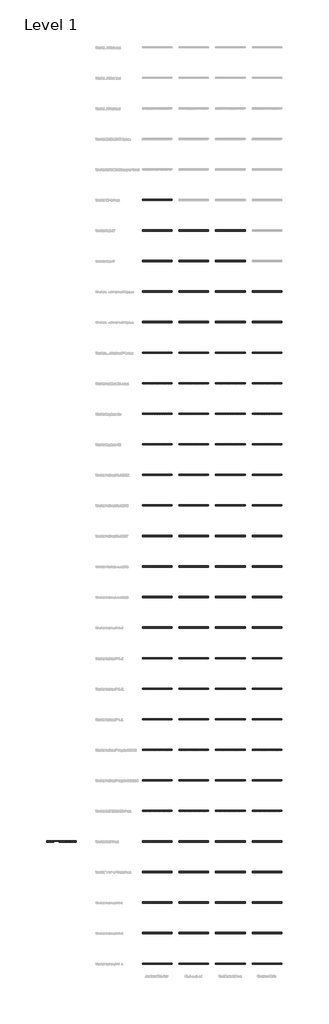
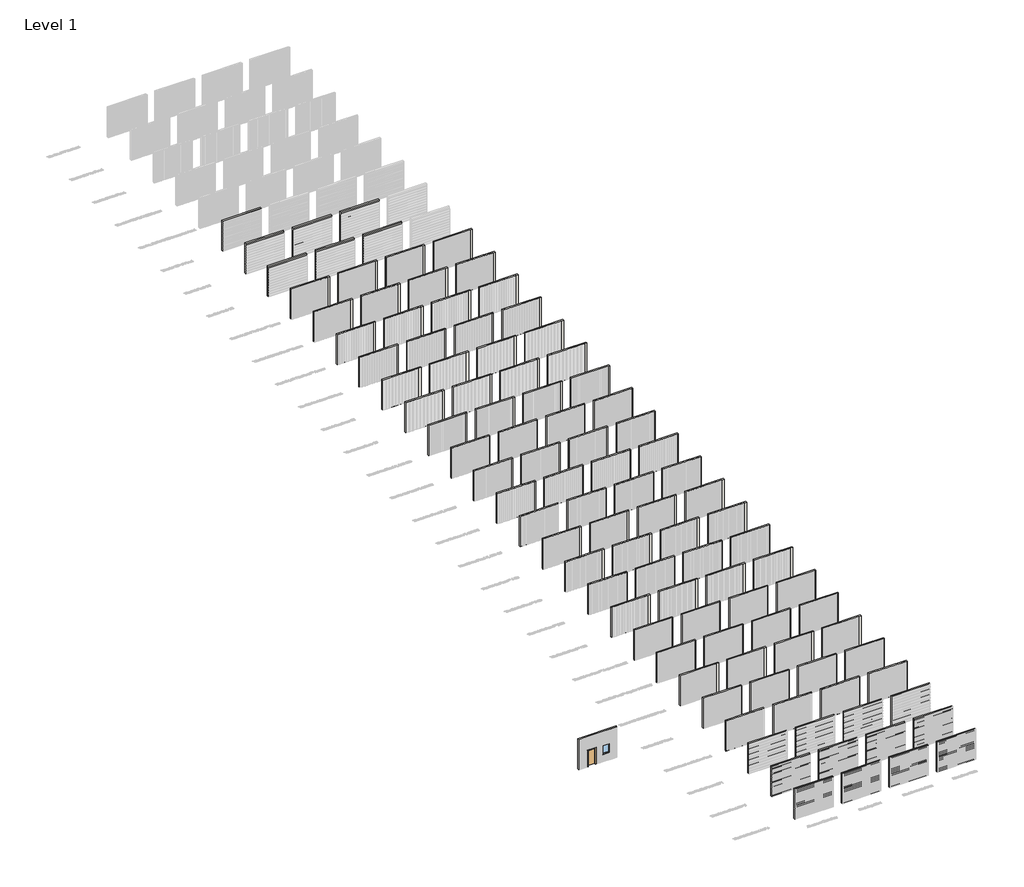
# One storey, part 1 of 33: 100 walls, 1 door, 1 window.
"""IFC4 building model written with IfcOpenShell, lengths in millimetres."""

from ifc_helpers import new_model, si_unit, frame, origin, origin_with_axes, place, context, project, spatial, polyline, outline, extrude, transform, mapped, element, save
from components import m_single_flush_0915_x_2134mm_6a9e8738, m_fixed_0915_x_1220mm_488fb2fb

model = new_model("IFC4")

# Units and contexts
model_context = context("Model", 3, world=origin())
ifc_project = project(units=[si_unit("LENGTHUNIT", "METRE", prefix="MILLI")], contexts=[model_context])

# Site, building, storey
site = spatial("IfcSite", under=ifc_project)
building = spatial("IfcBuilding", under=site)
storey = spatial("IfcBuildingStorey", under=building, Name="Level 1", Elevation=0.0)

# Door
placement = place(None, origin())
m_single_flush_0915_x_2134mm_shape = m_single_flush_0915_x_2134mm_6a9e8738(model_context)
element("IfcDoor", 1, ObjectType="M_Single-Flush : 0915 x 2134mm", at=placement, inside=storey, context=model_context, shape_type="MappedRepresentation", body=[
    mapped(m_single_flush_0915_x_2134mm_shape, transform((-16420.0272757, 2178.6095025, 0.0), x_axis=(1.0, 0.0, 0.0), y_axis=(0.0, 1.0, 0.0), z_axis=(0.0, 0.0, 1.0))),
])

# Walls
element("IfcWall", 2, ObjectType="Generic - 200mm", at=placement, inside=storey, context=model_context, shape_type="SweptSolid", body=[
    extrude(outline(polyline([(2489.4102183, 2078.6095025), (-2360.5897817, 2078.6095025), (-2360.5897817, 2278.6095025), (2489.4102183, 2278.6095025), (2489.4102183, 2078.6095025)])), origin_with_axes(), (0.0, 0.0, 1.0), 4000.0),
])
element("IfcWall", 3, ObjectType="Generic - 200mm", at=placement, inside=storey, context=model_context, shape_type="SweptSolid", body=[
    extrude(outline(polyline([(2489.4102183, -2921.3904975), (-2360.5897817, -2921.3904975), (-2360.5897817, -2721.3904975), (2489.4102183, -2721.3904975), (2489.4102183, -2921.3904975)])), origin_with_axes(), (0.0, 0.0, 1.0), 4000.0),
])
element("IfcWall", 4, ObjectType="Generic - 200mm", at=placement, inside=storey, context=model_context, shape_type="SweptSolid", body=[
    extrude(outline(polyline([(2489.4102183, -7921.3904975), (-2360.5897817, -7921.3904975), (-2360.5897817, -7721.3904975), (2489.4102183, -7721.3904975), (2489.4102183, -7921.3904975)])), origin_with_axes(), (0.0, 0.0, 1.0), 4000.0),
])
element("IfcWall", 5, ObjectType="Generic - 200mm", at=placement, inside=storey, context=model_context, shape_type="SweptSolid", body=[
    extrude(outline(polyline([(2134.0, -15962.5272757), (0.0, -15962.5272757), (0.0, -13227.5272757), (4000.0, -13227.5272757), (4000.0, -18077.5272757), (0.0, -18077.5272757), (0.0, -16877.5272757), (2134.0, -16877.5272757), (2134.0, -15962.5272757)]), holes=[polyline([(915.0, -15052.5272757), (2135.0, -15052.5272757), (2135.0, -14137.5272757), (915.0, -14137.5272757), (915.0, -15052.5272757)])]), frame((0.0, 2078.6095025, 0.0), z_axis=(0.0, 1.0, 0.0), x_axis=(0.0, 0.0, 1.0)), (0.0, 0.0, 1.0), 200.0),
])
element("IfcWall", 6, ObjectType="Generic - 200mm", at=placement, inside=storey, context=model_context, shape_type="SweptSolid", body=[
    extrude(outline(polyline([(2489.4102183, -12921.3904975), (-2360.5897817, -12921.3904975), (-2360.5897817, -12721.3904975), (2489.4102183, -12721.3904975), (2489.4102183, -12921.3904975)])), origin_with_axes(), (0.0, 0.0, 1.0), 4000.0),
])
element("IfcWall", 7, ObjectType="Generic - 200mm", at=placement, inside=storey, context=model_context, shape_type="SweptSolid", body=[
    extrude(outline(polyline([(2489.4102183, -17921.3904975), (-2360.5897817, -17921.3904975), (-2360.5897817, -17721.3904975), (2489.4102183, -17721.3904975), (2489.4102183, -17921.3904975)])), origin_with_axes(), (0.0, 0.0, 1.0), 4000.0),
])
element("IfcWall", 8, ObjectType="Generic - 200mm", at=placement, inside=storey, context=model_context, shape_type="SweptSolid", body=[
    extrude(outline(polyline([(8489.4102183, 2078.6095025), (3639.4102183, 2078.6095025), (3639.4102183, 2278.6095025), (8489.4102183, 2278.6095025), (8489.4102183, 2078.6095025)])), origin_with_axes(), (0.0, 0.0, 1.0), 4000.0),
])
element("IfcWall", 9, ObjectType="Generic - 200mm", at=placement, inside=storey, context=model_context, shape_type="SweptSolid", body=[
    extrude(outline(polyline([(8489.4102183, -2921.3904975), (3639.4102183, -2921.3904975), (3639.4102183, -2721.3904975), (8489.4102183, -2721.3904975), (8489.4102183, -2921.3904975)])), origin_with_axes(), (0.0, 0.0, 1.0), 4000.0),
])
element("IfcWall", 10, ObjectType="Generic - 200mm", at=placement, inside=storey, context=model_context, shape_type="SweptSolid", body=[
    extrude(outline(polyline([(8489.4102183, -7921.3904975), (3639.4102183, -7921.3904975), (3639.4102183, -7721.3904975), (8489.4102183, -7721.3904975), (8489.4102183, -7921.3904975)])), origin_with_axes(), (0.0, 0.0, 1.0), 4000.0),
])
element("IfcWall", 11, ObjectType="Generic - 200mm", at=placement, inside=storey, context=model_context, shape_type="SweptSolid", body=[
    extrude(outline(polyline([(8489.4102183, -12921.3904975), (3639.4102183, -12921.3904975), (3639.4102183, -12721.3904975), (8489.4102183, -12721.3904975), (8489.4102183, -12921.3904975)])), origin_with_axes(), (0.0, 0.0, 1.0), 4000.0),
])
element("IfcWall", 12, ObjectType="Generic - 200mm", at=placement, inside=storey, context=model_context, shape_type="SweptSolid", body=[
    extrude(outline(polyline([(8489.4102183, -17921.3904975), (3639.4102183, -17921.3904975), (3639.4102183, -17721.3904975), (8489.4102183, -17721.3904975), (8489.4102183, -17921.3904975)])), origin_with_axes(), (0.0, 0.0, 1.0), 4000.0),
])
element("IfcWall", 13, ObjectType="Generic - 200mm", at=placement, inside=storey, context=model_context, shape_type="SweptSolid", body=[
    extrude(outline(polyline([(14489.4102183, 2078.6095025), (9639.4102183, 2078.6095025), (9639.4102183, 2278.6095025), (14489.4102183, 2278.6095025), (14489.4102183, 2078.6095025)])), origin_with_axes(), (0.0, 0.0, 1.0), 4000.0),
])
element("IfcWall", 14, ObjectType="Generic - 200mm", at=placement, inside=storey, context=model_context, shape_type="SweptSolid", body=[
    extrude(outline(polyline([(14489.4102183, -2921.3904975), (9639.4102183, -2921.3904975), (9639.4102183, -2721.3904975), (14489.4102183, -2721.3904975), (14489.4102183, -2921.3904975)])), origin_with_axes(), (0.0, 0.0, 1.0), 4000.0),
])
element("IfcWall", 15, ObjectType="Generic - 200mm", at=placement, inside=storey, context=model_context, shape_type="SweptSolid", body=[
    extrude(outline(polyline([(14489.4102183, -7921.3904975), (9639.4102183, -7921.3904975), (9639.4102183, -7721.3904975), (14489.4102183, -7721.3904975), (14489.4102183, -7921.3904975)])), origin_with_axes(), (0.0, 0.0, 1.0), 4000.0),
])
element("IfcWall", 16, ObjectType="Generic - 200mm", at=placement, inside=storey, context=model_context, shape_type="SweptSolid", body=[
    extrude(outline(polyline([(14489.4102183, -12921.3904975), (9639.4102183, -12921.3904975), (9639.4102183, -12721.3904975), (14489.4102183, -12721.3904975), (14489.4102183, -12921.3904975)])), origin_with_axes(), (0.0, 0.0, 1.0), 4000.0),
])
element("IfcWall", 17, ObjectType="Generic - 200mm", at=placement, inside=storey, context=model_context, shape_type="SweptSolid", body=[
    extrude(outline(polyline([(14489.4102183, -17921.3904975), (9639.4102183, -17921.3904975), (9639.4102183, -17721.3904975), (14489.4102183, -17721.3904975), (14489.4102183, -17921.3904975)])), origin_with_axes(), (0.0, 0.0, 1.0), 4000.0),
])
element("IfcWall", 18, ObjectType="Generic - 200mm", at=placement, inside=storey, context=model_context, shape_type="SweptSolid", body=[
    extrude(outline(polyline([(20489.4102183, 2078.6095025), (15639.4102183, 2078.6095025), (15639.4102183, 2278.6095025), (20489.4102183, 2278.6095025), (20489.4102183, 2078.6095025)])), origin_with_axes(), (0.0, 0.0, 1.0), 4000.0),
])
element("IfcWall", 19, ObjectType="Generic - 200mm", at=placement, inside=storey, context=model_context, shape_type="SweptSolid", body=[
    extrude(outline(polyline([(20489.4102183, -2921.3904975), (15639.4102183, -2921.3904975), (15639.4102183, -2721.3904975), (20489.4102183, -2721.3904975), (20489.4102183, -2921.3904975)])), origin_with_axes(), (0.0, 0.0, 1.0), 4000.0),
])
element("IfcWall", 20, ObjectType="Generic - 200mm", at=placement, inside=storey, context=model_context, shape_type="SweptSolid", body=[
    extrude(outline(polyline([(20489.4102183, -7921.3904975), (15639.4102183, -7921.3904975), (15639.4102183, -7721.3904975), (20489.4102183, -7721.3904975), (20489.4102183, -7921.3904975)])), origin_with_axes(), (0.0, 0.0, 1.0), 4000.0),
])
element("IfcWall", 21, ObjectType="Generic - 200mm", at=placement, inside=storey, context=model_context, shape_type="SweptSolid", body=[
    extrude(outline(polyline([(20489.4102183, -12921.3904975), (15639.4102183, -12921.3904975), (15639.4102183, -12721.3904975), (20489.4102183, -12721.3904975), (20489.4102183, -12921.3904975)])), origin_with_axes(), (0.0, 0.0, 1.0), 4000.0),
])
element("IfcWall", 22, ObjectType="Generic - 200mm", at=placement, inside=storey, context=model_context, shape_type="SweptSolid", body=[
    extrude(outline(polyline([(20489.4102183, -17921.3904975), (15639.4102183, -17921.3904975), (15639.4102183, -17721.3904975), (20489.4102183, -17721.3904975), (20489.4102183, -17921.3904975)])), origin_with_axes(), (0.0, 0.0, 1.0), 4000.0),
])
element("IfcWall", 23, ObjectType="Generic - 200mm", at=placement, inside=storey, context=model_context, shape_type="SweptSolid", body=[
    extrude(outline(polyline([(2489.4102183, 7078.6095025), (-2360.5897817, 7078.6095025), (-2360.5897817, 7278.6095025), (2489.4102183, 7278.6095025), (2489.4102183, 7078.6095025)])), origin_with_axes(), (0.0, 0.0, 1.0), 4000.0),
])
element("IfcWall", 24, ObjectType="Generic - 200mm", at=placement, inside=storey, context=model_context, shape_type="SweptSolid", body=[
    extrude(outline(polyline([(8489.4102183, 7078.6095025), (3639.4102183, 7078.6095025), (3639.4102183, 7278.6095025), (8489.4102183, 7278.6095025), (8489.4102183, 7078.6095025)])), origin_with_axes(), (0.0, 0.0, 1.0), 4000.0),
])
element("IfcWall", 25, ObjectType="Generic - 200mm", at=placement, inside=storey, context=model_context, shape_type="SweptSolid", body=[
    extrude(outline(polyline([(14489.4102183, 7078.6095025), (9639.4102183, 7078.6095025), (9639.4102183, 7278.6095025), (14489.4102183, 7278.6095025), (14489.4102183, 7078.6095025)])), origin_with_axes(), (0.0, 0.0, 1.0), 4000.0),
])
element("IfcWall", 26, ObjectType="Generic - 200mm", at=placement, inside=storey, context=model_context, shape_type="SweptSolid", body=[
    extrude(outline(polyline([(20489.4102183, 7078.6095025), (15639.4102183, 7078.6095025), (15639.4102183, 7278.6095025), (20489.4102183, 7278.6095025), (20489.4102183, 7078.6095025)])), origin_with_axes(), (0.0, 0.0, 1.0), 4000.0),
])
element("IfcWall", 27, ObjectType="Generic - 200mm", at=placement, inside=storey, context=model_context, shape_type="SweptSolid", body=[
    extrude(outline(polyline([(2489.4102183, 12078.6095025), (-2360.5897817, 12078.6095025), (-2360.5897817, 12278.6095025), (2489.4102183, 12278.6095025), (2489.4102183, 12078.6095025)])), origin_with_axes(), (0.0, 0.0, 1.0), 4000.0),
])
element("IfcWall", 28, ObjectType="Generic - 200mm", at=placement, inside=storey, context=model_context, shape_type="SweptSolid", body=[
    extrude(outline(polyline([(8489.4102183, 12078.6095025), (3639.4102183, 12078.6095025), (3639.4102183, 12278.6095025), (8489.4102183, 12278.6095025), (8489.4102183, 12078.6095025)])), origin_with_axes(), (0.0, 0.0, 1.0), 4000.0),
])
element("IfcWall", 29, ObjectType="Generic - 200mm", at=placement, inside=storey, context=model_context, shape_type="SweptSolid", body=[
    extrude(outline(polyline([(14489.4102183, 12078.6095025), (9639.4102183, 12078.6095025), (9639.4102183, 12278.6095025), (14489.4102183, 12278.6095025), (14489.4102183, 12078.6095025)])), origin_with_axes(), (0.0, 0.0, 1.0), 4000.0),
])
element("IfcWall", 30, ObjectType="Generic - 200mm", at=placement, inside=storey, context=model_context, shape_type="SweptSolid", body=[
    extrude(outline(polyline([(20489.4102183, 12078.6095025), (15639.4102183, 12078.6095025), (15639.4102183, 12278.6095025), (20489.4102183, 12278.6095025), (20489.4102183, 12078.6095025)])), origin_with_axes(), (0.0, 0.0, 1.0), 4000.0),
])
element("IfcWall", 31, ObjectType="Generic - 200mm", at=placement, inside=storey, context=model_context, shape_type="SweptSolid", body=[
    extrude(outline(polyline([(2489.4102183, 17078.6095025), (-2360.5897817, 17078.6095025), (-2360.5897817, 17278.6095025), (2489.4102183, 17278.6095025), (2489.4102183, 17078.6095025)])), origin_with_axes(), (0.0, 0.0, 1.0), 4000.0),
])
element("IfcWall", 32, ObjectType="Generic - 200mm", at=placement, inside=storey, context=model_context, shape_type="SweptSolid", body=[
    extrude(outline(polyline([(8489.4102183, 17078.6095025), (3639.4102183, 17078.6095025), (3639.4102183, 17278.6095025), (8489.4102183, 17278.6095025), (8489.4102183, 17078.6095025)])), origin_with_axes(), (0.0, 0.0, 1.0), 4000.0),
])
element("IfcWall", 33, ObjectType="Generic - 200mm", at=placement, inside=storey, context=model_context, shape_type="SweptSolid", body=[
    extrude(outline(polyline([(14489.4102183, 17078.6095025), (9639.4102183, 17078.6095025), (9639.4102183, 17278.6095025), (14489.4102183, 17278.6095025), (14489.4102183, 17078.6095025)])), origin_with_axes(), (0.0, 0.0, 1.0), 4000.0),
])
element("IfcWall", 34, ObjectType="Generic - 200mm", at=placement, inside=storey, context=model_context, shape_type="SweptSolid", body=[
    extrude(outline(polyline([(20489.4102183, 17078.6095025), (15639.4102183, 17078.6095025), (15639.4102183, 17278.6095025), (20489.4102183, 17278.6095025), (20489.4102183, 17078.6095025)])), origin_with_axes(), (0.0, 0.0, 1.0), 4000.0),
])
element("IfcWall", 35, ObjectType="Generic - 200mm", at=placement, inside=storey, context=model_context, shape_type="SweptSolid", body=[
    extrude(outline(polyline([(2489.4102183, 22078.6095025), (-2360.5897817, 22078.6095025), (-2360.5897817, 22278.6095025), (2489.4102183, 22278.6095025), (2489.4102183, 22078.6095025)])), origin_with_axes(), (0.0, 0.0, 1.0), 4000.0),
])
element("IfcWall", 36, ObjectType="Generic - 200mm", at=placement, inside=storey, context=model_context, shape_type="SweptSolid", body=[
    extrude(outline(polyline([(8489.4102183, 22078.6095025), (3639.4102183, 22078.6095025), (3639.4102183, 22278.6095025), (8489.4102183, 22278.6095025), (8489.4102183, 22078.6095025)])), origin_with_axes(), (0.0, 0.0, 1.0), 4000.0),
])
element("IfcWall", 37, ObjectType="Generic - 200mm", at=placement, inside=storey, context=model_context, shape_type="SweptSolid", body=[
    extrude(outline(polyline([(14489.4102183, 22078.6095025), (9639.4102183, 22078.6095025), (9639.4102183, 22278.6095025), (14489.4102183, 22278.6095025), (14489.4102183, 22078.6095025)])), origin_with_axes(), (0.0, 0.0, 1.0), 4000.0),
])
element("IfcWall", 38, ObjectType="Generic - 200mm", at=placement, inside=storey, context=model_context, shape_type="SweptSolid", body=[
    extrude(outline(polyline([(20489.4102183, 22078.6095025), (15639.4102183, 22078.6095025), (15639.4102183, 22278.6095025), (20489.4102183, 22278.6095025), (20489.4102183, 22078.6095025)])), origin_with_axes(), (0.0, 0.0, 1.0), 4000.0),
])
element("IfcWall", 39, ObjectType="Generic - 200mm", at=placement, inside=storey, context=model_context, shape_type="SweptSolid", body=[
    extrude(outline(polyline([(2489.4102183, 27078.6095025), (-2360.5897817, 27078.6095025), (-2360.5897817, 27278.6095025), (2489.4102183, 27278.6095025), (2489.4102183, 27078.6095025)])), origin_with_axes(), (0.0, 0.0, 1.0), 4000.0),
])
element("IfcWall", 40, ObjectType="Generic - 200mm", at=placement, inside=storey, context=model_context, shape_type="SweptSolid", body=[
    extrude(outline(polyline([(8489.4102183, 27078.6095025), (3639.4102183, 27078.6095025), (3639.4102183, 27278.6095025), (8489.4102183, 27278.6095025), (8489.4102183, 27078.6095025)])), origin_with_axes(), (0.0, 0.0, 1.0), 4000.0),
])
element("IfcWall", 41, ObjectType="Generic - 200mm", at=placement, inside=storey, context=model_context, shape_type="SweptSolid", body=[
    extrude(outline(polyline([(14489.4102183, 27078.6095025), (9639.4102183, 27078.6095025), (9639.4102183, 27278.6095025), (14489.4102183, 27278.6095025), (14489.4102183, 27078.6095025)])), origin_with_axes(), (0.0, 0.0, 1.0), 4000.0),
])
element("IfcWall", 42, ObjectType="Generic - 200mm", at=placement, inside=storey, context=model_context, shape_type="SweptSolid", body=[
    extrude(outline(polyline([(20489.4102183, 27078.6095025), (15639.4102183, 27078.6095025), (15639.4102183, 27278.6095025), (20489.4102183, 27278.6095025), (20489.4102183, 27078.6095025)])), origin_with_axes(), (0.0, 0.0, 1.0), 4000.0),
])
element("IfcWall", 43, ObjectType="Generic - 200mm", at=placement, inside=storey, context=model_context, shape_type="SweptSolid", body=[
    extrude(outline(polyline([(2489.4102183, 32078.6095025), (-2360.5897817, 32078.6095025), (-2360.5897817, 32278.6095025), (2489.4102183, 32278.6095025), (2489.4102183, 32078.6095025)])), origin_with_axes(), (0.0, 0.0, 1.0), 4000.0),
])
element("IfcWall", 44, ObjectType="Generic - 200mm", at=placement, inside=storey, context=model_context, shape_type="SweptSolid", body=[
    extrude(outline(polyline([(8489.4102183, 32078.6095025), (3639.4102183, 32078.6095025), (3639.4102183, 32278.6095025), (8489.4102183, 32278.6095025), (8489.4102183, 32078.6095025)])), origin_with_axes(), (0.0, 0.0, 1.0), 4000.0),
])
element("IfcWall", 45, ObjectType="Generic - 200mm", at=placement, inside=storey, context=model_context, shape_type="SweptSolid", body=[
    extrude(outline(polyline([(14489.4102183, 32078.6095025), (9639.4102183, 32078.6095025), (9639.4102183, 32278.6095025), (14489.4102183, 32278.6095025), (14489.4102183, 32078.6095025)])), origin_with_axes(), (0.0, 0.0, 1.0), 4000.0),
])
element("IfcWall", 46, ObjectType="Generic - 200mm", at=placement, inside=storey, context=model_context, shape_type="SweptSolid", body=[
    extrude(outline(polyline([(20489.4102183, 32078.6095025), (15639.4102183, 32078.6095025), (15639.4102183, 32278.6095025), (20489.4102183, 32278.6095025), (20489.4102183, 32078.6095025)])), origin_with_axes(), (0.0, 0.0, 1.0), 4000.0),
])
element("IfcWall", 47, ObjectType="Generic - 200mm", at=placement, inside=storey, context=model_context, shape_type="SweptSolid", body=[
    extrude(outline(polyline([(2489.4102183, 37078.6095025), (-2360.5897817, 37078.6095025), (-2360.5897817, 37278.6095025), (2489.4102183, 37278.6095025), (2489.4102183, 37078.6095025)])), origin_with_axes(), (0.0, 0.0, 1.0), 4000.0),
])
element("IfcWall", 48, ObjectType="Generic - 200mm", at=placement, inside=storey, context=model_context, shape_type="SweptSolid", body=[
    extrude(outline(polyline([(8489.4102183, 37078.6095025), (3639.4102183, 37078.6095025), (3639.4102183, 37278.6095025), (8489.4102183, 37278.6095025), (8489.4102183, 37078.6095025)])), origin_with_axes(), (0.0, 0.0, 1.0), 4000.0),
])
element("IfcWall", 49, ObjectType="Generic - 200mm", at=placement, inside=storey, context=model_context, shape_type="SweptSolid", body=[
    extrude(outline(polyline([(14489.4102183, 37078.6095025), (9639.4102183, 37078.6095025), (9639.4102183, 37278.6095025), (14489.4102183, 37278.6095025), (14489.4102183, 37078.6095025)])), origin_with_axes(), (0.0, 0.0, 1.0), 4000.0),
])
element("IfcWall", 50, ObjectType="Generic - 200mm", at=placement, inside=storey, context=model_context, shape_type="SweptSolid", body=[
    extrude(outline(polyline([(20489.4102183, 37078.6095025), (15639.4102183, 37078.6095025), (15639.4102183, 37278.6095025), (20489.4102183, 37278.6095025), (20489.4102183, 37078.6095025)])), origin_with_axes(), (0.0, 0.0, 1.0), 4000.0),
])
element("IfcWall", 51, ObjectType="Generic - 200mm", at=placement, inside=storey, context=model_context, shape_type="SweptSolid", body=[
    extrude(outline(polyline([(2489.4102183, 42078.6095025), (-2360.5897817, 42078.6095025), (-2360.5897817, 42278.6095025), (2489.4102183, 42278.6095025), (2489.4102183, 42078.6095025)])), origin_with_axes(), (0.0, 0.0, 1.0), 4000.0),
])
element("IfcWall", 52, ObjectType="Generic - 200mm", at=placement, inside=storey, context=model_context, shape_type="SweptSolid", body=[
    extrude(outline(polyline([(8489.4102183, 42078.6095025), (3639.4102183, 42078.6095025), (3639.4102183, 42278.6095025), (8489.4102183, 42278.6095025), (8489.4102183, 42078.6095025)])), origin_with_axes(), (0.0, 0.0, 1.0), 4000.0),
])
element("IfcWall", 53, ObjectType="Generic - 200mm", at=placement, inside=storey, context=model_context, shape_type="SweptSolid", body=[
    extrude(outline(polyline([(14489.4102183, 42078.6095025), (9639.4102183, 42078.6095025), (9639.4102183, 42278.6095025), (14489.4102183, 42278.6095025), (14489.4102183, 42078.6095025)])), origin_with_axes(), (0.0, 0.0, 1.0), 4000.0),
])
element("IfcWall", 54, ObjectType="Generic - 200mm", at=placement, inside=storey, context=model_context, shape_type="SweptSolid", body=[
    extrude(outline(polyline([(20489.4102183, 42078.6095025), (15639.4102183, 42078.6095025), (15639.4102183, 42278.6095025), (20489.4102183, 42278.6095025), (20489.4102183, 42078.6095025)])), origin_with_axes(), (0.0, 0.0, 1.0), 4000.0),
])
element("IfcWall", 55, ObjectType="Generic - 200mm", at=placement, inside=storey, context=model_context, shape_type="SweptSolid", body=[
    extrude(outline(polyline([(2489.4102183, 47078.6095025), (-2360.5897817, 47078.6095025), (-2360.5897817, 47278.6095025), (2489.4102183, 47278.6095025), (2489.4102183, 47078.6095025)])), origin_with_axes(), (0.0, 0.0, 1.0), 4000.0),
])
element("IfcWall", 56, ObjectType="Generic - 200mm", at=placement, inside=storey, context=model_context, shape_type="SweptSolid", body=[
    extrude(outline(polyline([(8489.4102183, 47078.6095025), (3639.4102183, 47078.6095025), (3639.4102183, 47278.6095025), (8489.4102183, 47278.6095025), (8489.4102183, 47078.6095025)])), origin_with_axes(), (0.0, 0.0, 1.0), 4000.0),
])
element("IfcWall", 57, ObjectType="Generic - 200mm", at=placement, inside=storey, context=model_context, shape_type="SweptSolid", body=[
    extrude(outline(polyline([(14489.4102183, 47078.6095025), (9639.4102183, 47078.6095025), (9639.4102183, 47278.6095025), (14489.4102183, 47278.6095025), (14489.4102183, 47078.6095025)])), origin_with_axes(), (0.0, 0.0, 1.0), 4000.0),
])
element("IfcWall", 58, ObjectType="Generic - 200mm", at=placement, inside=storey, context=model_context, shape_type="SweptSolid", body=[
    extrude(outline(polyline([(20489.4102183, 47078.6095025), (15639.4102183, 47078.6095025), (15639.4102183, 47278.6095025), (20489.4102183, 47278.6095025), (20489.4102183, 47078.6095025)])), origin_with_axes(), (0.0, 0.0, 1.0), 4000.0),
])
element("IfcWall", 59, ObjectType="Generic - 200mm", at=placement, inside=storey, context=model_context, shape_type="SweptSolid", body=[
    extrude(outline(polyline([(2489.4102183, 52078.6095025), (-2360.5897817, 52078.6095025), (-2360.5897817, 52278.6095025), (2489.4102183, 52278.6095025), (2489.4102183, 52078.6095025)])), origin_with_axes(), (0.0, 0.0, 1.0), 4000.0),
])
element("IfcWall", 60, ObjectType="Generic - 200mm", at=placement, inside=storey, context=model_context, shape_type="SweptSolid", body=[
    extrude(outline(polyline([(8489.4102183, 52078.6095025), (3639.4102183, 52078.6095025), (3639.4102183, 52278.6095025), (8489.4102183, 52278.6095025), (8489.4102183, 52078.6095025)])), origin_with_axes(), (0.0, 0.0, 1.0), 4000.0),
])
element("IfcWall", 61, ObjectType="Generic - 200mm", at=placement, inside=storey, context=model_context, shape_type="SweptSolid", body=[
    extrude(outline(polyline([(14489.4102183, 52078.6095025), (9639.4102183, 52078.6095025), (9639.4102183, 52278.6095025), (14489.4102183, 52278.6095025), (14489.4102183, 52078.6095025)])), origin_with_axes(), (0.0, 0.0, 1.0), 4000.0),
])
element("IfcWall", 62, ObjectType="Generic - 200mm", at=placement, inside=storey, context=model_context, shape_type="SweptSolid", body=[
    extrude(outline(polyline([(20489.4102183, 52078.6095025), (15639.4102183, 52078.6095025), (15639.4102183, 52278.6095025), (20489.4102183, 52278.6095025), (20489.4102183, 52078.6095025)])), origin_with_axes(), (0.0, 0.0, 1.0), 4000.0),
])
element("IfcWall", 63, ObjectType="Generic - 200mm", at=placement, inside=storey, context=model_context, shape_type="SweptSolid", body=[
    extrude(outline(polyline([(2489.4102183, 57078.6095025), (-2360.5897817, 57078.6095025), (-2360.5897817, 57278.6095025), (2489.4102183, 57278.6095025), (2489.4102183, 57078.6095025)])), origin_with_axes(), (0.0, 0.0, 1.0), 4000.0),
])
element("IfcWall", 64, ObjectType="Generic - 200mm", at=placement, inside=storey, context=model_context, shape_type="SweptSolid", body=[
    extrude(outline(polyline([(8489.4102183, 57078.6095025), (3639.4102183, 57078.6095025), (3639.4102183, 57278.6095025), (8489.4102183, 57278.6095025), (8489.4102183, 57078.6095025)])), origin_with_axes(), (0.0, 0.0, 1.0), 4000.0),
])
element("IfcWall", 65, ObjectType="Generic - 200mm", at=placement, inside=storey, context=model_context, shape_type="SweptSolid", body=[
    extrude(outline(polyline([(14489.4102183, 57078.6095025), (9639.4102183, 57078.6095025), (9639.4102183, 57278.6095025), (14489.4102183, 57278.6095025), (14489.4102183, 57078.6095025)])), origin_with_axes(), (0.0, 0.0, 1.0), 4000.0),
])
element("IfcWall", 66, ObjectType="Generic - 200mm", at=placement, inside=storey, context=model_context, shape_type="SweptSolid", body=[
    extrude(outline(polyline([(20489.4102183, 57078.6095025), (15639.4102183, 57078.6095025), (15639.4102183, 57278.6095025), (20489.4102183, 57278.6095025), (20489.4102183, 57078.6095025)])), origin_with_axes(), (0.0, 0.0, 1.0), 4000.0),
])
element("IfcWall", 67, ObjectType="Generic - 200mm", at=placement, inside=storey, context=model_context, shape_type="SweptSolid", body=[
    extrude(outline(polyline([(2489.4102183, 62078.6095025), (-2360.5897817, 62078.6095025), (-2360.5897817, 62278.6095025), (2489.4102183, 62278.6095025), (2489.4102183, 62078.6095025)])), origin_with_axes(), (0.0, 0.0, 1.0), 4000.0),
])
element("IfcWall", 68, ObjectType="Generic - 200mm", at=placement, inside=storey, context=model_context, shape_type="SweptSolid", body=[
    extrude(outline(polyline([(8489.4102183, 62078.6095025), (3639.4102183, 62078.6095025), (3639.4102183, 62278.6095025), (8489.4102183, 62278.6095025), (8489.4102183, 62078.6095025)])), origin_with_axes(), (0.0, 0.0, 1.0), 4000.0),
])
element("IfcWall", 69, ObjectType="Generic - 200mm", at=placement, inside=storey, context=model_context, shape_type="SweptSolid", body=[
    extrude(outline(polyline([(14489.4102183, 62078.6095025), (9639.4102183, 62078.6095025), (9639.4102183, 62278.6095025), (14489.4102183, 62278.6095025), (14489.4102183, 62078.6095025)])), origin_with_axes(), (0.0, 0.0, 1.0), 4000.0),
])
element("IfcWall", 70, ObjectType="Generic - 200mm", at=placement, inside=storey, context=model_context, shape_type="SweptSolid", body=[
    extrude(outline(polyline([(20489.4102183, 62078.6095025), (15639.4102183, 62078.6095025), (15639.4102183, 62278.6095025), (20489.4102183, 62278.6095025), (20489.4102183, 62078.6095025)])), origin_with_axes(), (0.0, 0.0, 1.0), 4000.0),
])
element("IfcWall", 71, ObjectType="Generic - 200mm", at=placement, inside=storey, context=model_context, shape_type="SweptSolid", body=[
    extrude(outline(polyline([(2489.4102183, 67078.6095025), (-2360.5897817, 67078.6095025), (-2360.5897817, 67278.6095025), (2489.4102183, 67278.6095025), (2489.4102183, 67078.6095025)])), origin_with_axes(), (0.0, 0.0, 1.0), 4000.0),
])
element("IfcWall", 72, ObjectType="Generic - 200mm", at=placement, inside=storey, context=model_context, shape_type="SweptSolid", body=[
    extrude(outline(polyline([(8489.4102183, 67078.6095025), (3639.4102183, 67078.6095025), (3639.4102183, 67278.6095025), (8489.4102183, 67278.6095025), (8489.4102183, 67078.6095025)])), origin_with_axes(), (0.0, 0.0, 1.0), 4000.0),
])
element("IfcWall", 73, ObjectType="Generic - 200mm", at=placement, inside=storey, context=model_context, shape_type="SweptSolid", body=[
    extrude(outline(polyline([(14489.4102183, 67078.6095025), (9639.4102183, 67078.6095025), (9639.4102183, 67278.6095025), (14489.4102183, 67278.6095025), (14489.4102183, 67078.6095025)])), origin_with_axes(), (0.0, 0.0, 1.0), 4000.0),
])
element("IfcWall", 74, ObjectType="Generic - 200mm", at=placement, inside=storey, context=model_context, shape_type="SweptSolid", body=[
    extrude(outline(polyline([(20489.4102183, 67078.6095025), (15639.4102183, 67078.6095025), (15639.4102183, 67278.6095025), (20489.4102183, 67278.6095025), (20489.4102183, 67078.6095025)])), origin_with_axes(), (0.0, 0.0, 1.0), 4000.0),
])
element("IfcWall", 75, ObjectType="Generic - 200mm", at=placement, inside=storey, context=model_context, shape_type="SweptSolid", body=[
    extrude(outline(polyline([(2489.4102183, 72078.6095025), (-2360.5897817, 72078.6095025), (-2360.5897817, 72278.6095025), (2489.4102183, 72278.6095025), (2489.4102183, 72078.6095025)])), origin_with_axes(), (0.0, 0.0, 1.0), 4000.0),
])
element("IfcWall", 76, ObjectType="Generic - 200mm", at=placement, inside=storey, context=model_context, shape_type="SweptSolid", body=[
    extrude(outline(polyline([(8489.4102183, 72078.6095025), (3639.4102183, 72078.6095025), (3639.4102183, 72278.6095025), (8489.4102183, 72278.6095025), (8489.4102183, 72078.6095025)])), origin_with_axes(), (0.0, 0.0, 1.0), 4000.0),
])
element("IfcWall", 77, ObjectType="Generic - 200mm", at=placement, inside=storey, context=model_context, shape_type="SweptSolid", body=[
    extrude(outline(polyline([(14489.4102183, 72078.6095025), (9639.4102183, 72078.6095025), (9639.4102183, 72278.6095025), (14489.4102183, 72278.6095025), (14489.4102183, 72078.6095025)])), origin_with_axes(), (0.0, 0.0, 1.0), 4000.0),
])
element("IfcWall", 78, ObjectType="Generic - 200mm", at=placement, inside=storey, context=model_context, shape_type="SweptSolid", body=[
    extrude(outline(polyline([(20489.4102183, 72078.6095025), (15639.4102183, 72078.6095025), (15639.4102183, 72278.6095025), (20489.4102183, 72278.6095025), (20489.4102183, 72078.6095025)])), origin_with_axes(), (0.0, 0.0, 1.0), 4000.0),
])
element("IfcWall", 79, ObjectType="Generic - 200mm", at=placement, inside=storey, context=model_context, shape_type="SweptSolid", body=[
    extrude(outline(polyline([(2489.4102183, 87078.6095025), (-2360.5897817, 87078.6095025), (-2360.5897817, 87278.6095025), (2489.4102183, 87278.6095025), (2489.4102183, 87078.6095025)])), origin_with_axes(), (0.0, 0.0, 1.0), 4000.0),
])
element("IfcWall", 80, ObjectType="Generic - 200mm", at=placement, inside=storey, context=model_context, shape_type="SweptSolid", body=[
    extrude(outline(polyline([(8489.4102183, 87078.6095025), (3639.4102183, 87078.6095025), (3639.4102183, 87278.6095025), (8489.4102183, 87278.6095025), (8489.4102183, 87078.6095025)])), origin_with_axes(), (0.0, 0.0, 1.0), 4000.0),
])
element("IfcWall", 81, ObjectType="Generic - 200mm", at=placement, inside=storey, context=model_context, shape_type="SweptSolid", body=[
    extrude(outline(polyline([(14489.4102183, 87078.6095025), (9639.4102183, 87078.6095025), (9639.4102183, 87278.6095025), (14489.4102183, 87278.6095025), (14489.4102183, 87078.6095025)])), origin_with_axes(), (0.0, 0.0, 1.0), 4000.0),
])
element("IfcWall", 82, ObjectType="Generic - 200mm", at=placement, inside=storey, context=model_context, shape_type="SweptSolid", body=[
    extrude(outline(polyline([(20489.4102183, 87078.6095025), (15639.4102183, 87078.6095025), (15639.4102183, 87278.6095025), (20489.4102183, 87278.6095025), (20489.4102183, 87078.6095025)])), origin_with_axes(), (0.0, 0.0, 1.0), 4000.0),
])
element("IfcWall", 83, ObjectType="Generic - 200mm", at=placement, inside=storey, context=model_context, shape_type="SweptSolid", body=[
    extrude(outline(polyline([(2489.4102183, 82078.6095025), (-2360.5897817, 82078.6095025), (-2360.5897817, 82278.6095025), (2489.4102183, 82278.6095025), (2489.4102183, 82078.6095025)])), origin_with_axes(), (0.0, 0.0, 1.0), 4000.0),
])
element("IfcWall", 84, ObjectType="Generic - 200mm", at=placement, inside=storey, context=model_context, shape_type="SweptSolid", body=[
    extrude(outline(polyline([(8489.4102183, 82078.6095025), (3639.4102183, 82078.6095025), (3639.4102183, 82278.6095025), (8489.4102183, 82278.6095025), (8489.4102183, 82078.6095025)])), origin_with_axes(), (0.0, 0.0, 1.0), 4000.0),
])
element("IfcWall", 85, ObjectType="Generic - 200mm", at=placement, inside=storey, context=model_context, shape_type="SweptSolid", body=[
    extrude(outline(polyline([(14489.4102183, 82078.6095025), (9639.4102183, 82078.6095025), (9639.4102183, 82278.6095025), (14489.4102183, 82278.6095025), (14489.4102183, 82078.6095025)])), origin_with_axes(), (0.0, 0.0, 1.0), 4000.0),
])
element("IfcWall", 86, ObjectType="Generic - 200mm", at=placement, inside=storey, context=model_context, shape_type="SweptSolid", body=[
    extrude(outline(polyline([(20489.4102183, 82078.6095025), (15639.4102183, 82078.6095025), (15639.4102183, 82278.6095025), (20489.4102183, 82278.6095025), (20489.4102183, 82078.6095025)])), origin_with_axes(), (0.0, 0.0, 1.0), 4000.0),
])
element("IfcWall", 87, ObjectType="Generic - 200mm", at=placement, inside=storey, context=model_context, shape_type="SweptSolid", body=[
    extrude(outline(polyline([(2489.4102183, 92078.6095025), (-2360.5897817, 92078.6095025), (-2360.5897817, 92278.6095025), (2489.4102183, 92278.6095025), (2489.4102183, 92078.6095025)])), origin_with_axes(), (0.0, 0.0, 1.0), 4000.0),
])
element("IfcWall", 88, ObjectType="Generic - 200mm", at=placement, inside=storey, context=model_context, shape_type="SweptSolid", body=[
    extrude(outline(polyline([(8489.4102183, 92078.6095025), (3639.4102183, 92078.6095025), (3639.4102183, 92278.6095025), (8489.4102183, 92278.6095025), (8489.4102183, 92078.6095025)])), origin_with_axes(), (0.0, 0.0, 1.0), 4000.0),
])
element("IfcWall", 89, ObjectType="Generic - 200mm", at=placement, inside=storey, context=model_context, shape_type="SweptSolid", body=[
    extrude(outline(polyline([(14489.4102183, 92078.6095025), (9639.4102183, 92078.6095025), (9639.4102183, 92278.6095025), (14489.4102183, 92278.6095025), (14489.4102183, 92078.6095025)])), origin_with_axes(), (0.0, 0.0, 1.0), 4000.0),
])
element("IfcWall", 90, ObjectType="Generic - 200mm", at=placement, inside=storey, context=model_context, shape_type="SweptSolid", body=[
    extrude(outline(polyline([(20489.4102183, 92078.6095025), (15639.4102183, 92078.6095025), (15639.4102183, 92278.6095025), (20489.4102183, 92278.6095025), (20489.4102183, 92078.6095025)])), origin_with_axes(), (0.0, 0.0, 1.0), 4000.0),
])
element("IfcWall", 91, ObjectType="Generic - 200mm", at=placement, inside=storey, context=model_context, shape_type="SweptSolid", body=[
    extrude(outline(polyline([(2489.4102183, 97078.6095025), (-2360.5897817, 97078.6095025), (-2360.5897817, 97278.6095025), (2489.4102183, 97278.6095025), (2489.4102183, 97078.6095025)])), origin_with_axes(), (0.0, 0.0, 1.0), 4000.0),
])
element("IfcWall", 92, ObjectType="Generic - 200mm", at=placement, inside=storey, context=model_context, shape_type="SweptSolid", body=[
    extrude(outline(polyline([(8489.4102183, 97078.6095025), (3639.4102183, 97078.6095025), (3639.4102183, 97278.6095025), (8489.4102183, 97278.6095025), (8489.4102183, 97078.6095025)])), origin_with_axes(), (0.0, 0.0, 1.0), 4000.0),
])
element("IfcWall", 93, ObjectType="Generic - 200mm", at=placement, inside=storey, context=model_context, shape_type="SweptSolid", body=[
    extrude(outline(polyline([(14489.4102183, 97078.6095025), (9639.4102183, 97078.6095025), (9639.4102183, 97278.6095025), (14489.4102183, 97278.6095025), (14489.4102183, 97078.6095025)])), origin_with_axes(), (0.0, 0.0, 1.0), 4000.0),
])
element("IfcWall", 94, ObjectType="Generic - 200mm", at=placement, inside=storey, context=model_context, shape_type="SweptSolid", body=[
    extrude(outline(polyline([(2489.4102183, 102078.6095025), (-2360.5897817, 102078.6095025), (-2360.5897817, 102278.6095025), (2489.4102183, 102278.6095025), (2489.4102183, 102078.6095025)])), origin_with_axes(), (0.0, 0.0, 1.0), 4000.0),
])
element("IfcWall", 95, ObjectType="Generic - 200mm", at=placement, inside=storey, context=model_context, shape_type="SweptSolid", body=[
    extrude(outline(polyline([(8489.4102183, 102078.6095025), (3639.4102183, 102078.6095025), (3639.4102183, 102278.6095025), (8489.4102183, 102278.6095025), (8489.4102183, 102078.6095025)])), origin_with_axes(), (0.0, 0.0, 1.0), 4000.0),
])
element("IfcWall", 96, ObjectType="Generic - 200mm", at=placement, inside=storey, context=model_context, shape_type="SweptSolid", body=[
    extrude(outline(polyline([(14489.4102183, 102078.6095025), (9639.4102183, 102078.6095025), (9639.4102183, 102278.6095025), (14489.4102183, 102278.6095025), (14489.4102183, 102078.6095025)])), origin_with_axes(), (0.0, 0.0, 1.0), 4000.0),
])
element("IfcWall", 97, ObjectType="Generic - 200mm", at=placement, inside=storey, context=model_context, shape_type="SweptSolid", body=[
    extrude(outline(polyline([(2489.4102183, 77078.6095025), (-2360.5897817, 77078.6095025), (-2360.5897817, 77278.6095025), (2489.4102183, 77278.6095025), (2489.4102183, 77078.6095025)])), origin_with_axes(), (0.0, 0.0, 1.0), 4000.0),
])
element("IfcWall", 98, ObjectType="Generic - 200mm", at=placement, inside=storey, context=model_context, shape_type="SweptSolid", body=[
    extrude(outline(polyline([(8489.4102183, 77078.6095025), (3639.4102183, 77078.6095025), (3639.4102183, 77278.6095025), (8489.4102183, 77278.6095025), (8489.4102183, 77078.6095025)])), origin_with_axes(), (0.0, 0.0, 1.0), 4000.0),
])
element("IfcWall", 99, ObjectType="Generic - 200mm", at=placement, inside=storey, context=model_context, shape_type="SweptSolid", body=[
    extrude(outline(polyline([(14489.4102183, 77078.6095025), (9639.4102183, 77078.6095025), (9639.4102183, 77278.6095025), (14489.4102183, 77278.6095025), (14489.4102183, 77078.6095025)])), origin_with_axes(), (0.0, 0.0, 1.0), 4000.0),
])
element("IfcWall", 100, ObjectType="Generic - 200mm", at=placement, inside=storey, context=model_context, shape_type="SweptSolid", body=[
    extrude(outline(polyline([(20489.4102183, 77078.6095025), (15639.4102183, 77078.6095025), (15639.4102183, 77278.6095025), (20489.4102183, 77278.6095025), (20489.4102183, 77078.6095025)])), origin_with_axes(), (0.0, 0.0, 1.0), 4000.0),
])
element("IfcWall", 101, ObjectType="Generic - 200mm", at=placement, inside=storey, context=model_context, shape_type="SweptSolid", body=[
    extrude(outline(polyline([(2489.4102183, 107078.6095025), (-2360.5897817, 107078.6095025), (-2360.5897817, 107278.6095025), (2489.4102183, 107278.6095025), (2489.4102183, 107078.6095025)])), origin_with_axes(), (0.0, 0.0, 1.0), 4000.0),
])

# Window
m_fixed_0915_x_1220mm_shape = m_fixed_0915_x_1220mm_488fb2fb(model_context)
element("IfcWindow", 102, ObjectType="M_Fixed : 0915 x 1220mm", at=placement, inside=storey, context=model_context, shape_type="MappedRepresentation", body=[
    mapped(m_fixed_0915_x_1220mm_shape, transform((-14595.0272757, 2165.6095025, 0.0), x_axis=(1.0, 0.0, 0.0), y_axis=(0.0, 1.0, 0.0), z_axis=(0.0, 0.0, 1.0))),
])

save(model, "model.ifc")
